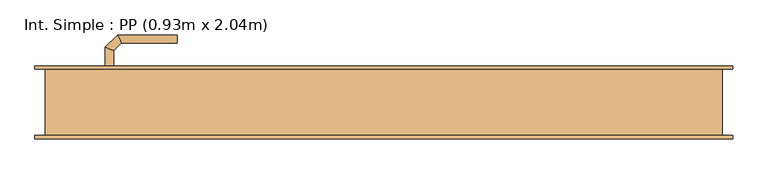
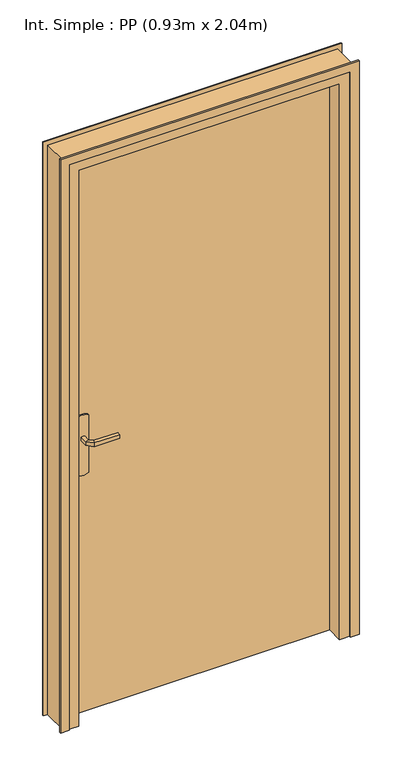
"""IFC4 building model written with IfcOpenShell, lengths in millimetres: door geometry, Int. Simple : PP (0.93m x 2.04m)."""

from ifc_helpers import new_model, si_unit, point, frame, frame_2d, origin, origin_with_axes, place, context, project, spatial, polyline, circle_curve, ellipse_curve, trimmed, segment, composite_curve, outline, extrude, faceted_brep, source, transform, mapped, element, save
from ifc_brep_helpers import plane_surface, cylinder_surface, advanced_brep


def int_simple_pp_0_93m_x_2_04m_fd0a7685(model_context):
    return source(origin(), model_context, "Body", "SolidModel", [
        extrude(outline(composite_curve([segment(trimmed(circle_curve(frame_2d((904.6410162, -440.0)), 40.0), [point((870.0, -460.0))], [point((870.0, -420.0))], False, "CARTESIAN"), True, "CONTINUOUS"), segment(polyline([(870.0, -420.0), (1080.0, -420.0)]), True, "CONTINUOUS"), segment(trimmed(circle_curve(frame_2d((1045.3589838, -440.0)), 40.0), [point((1080.0, -420.0))], [point((1080.0, -460.0))], False, "CARTESIAN"), True, "CONTINUOUS"), segment(polyline([(1080.0, -460.0), (870.0, -460.0)]), True, "CONTINUOUS")], self_intersect=False)), frame((0.0, 49.0, 0.0), z_axis=(0.0, 1.0, 0.0), x_axis=(0.0, 0.0, 1.0)), (0.0, 0.0, 1.0), 5.0),
        extrude(outline(composite_curve([segment(trimmed(circle_curve(frame_2d((1045.3589838, -440.0)), 40.0), [point((1080.0, -420.0))], [point((1080.0, -460.0))], False, "CARTESIAN"), True, "CONTINUOUS"), segment(polyline([(1080.0, -460.0), (870.0, -460.0)]), True, "CONTINUOUS"), segment(trimmed(circle_curve(frame_2d((904.6410162, -440.0)), 40.0), [point((870.0, -460.0))], [point((870.0, -420.0))], False, "CARTESIAN"), True, "CONTINUOUS"), segment(polyline([(870.0, -420.0), (1080.0, -420.0)]), True, "CONTINUOUS")], self_intersect=False)), frame((0.0, 4.0, 0.0), z_axis=(0.0, 1.0, 0.0), x_axis=(0.0, 0.0, 1.0)), (0.0, 0.0, 1.0), 5.0),
        advanced_brep(
        [(-446.0, 54.0, 1007.0), (-446.0, 54.0, 993.0), (-434.0, 54.0, 993.0), (-434.0, 54.0, 1007.0), (-434.0, 76.680388, 1007.0), (-446.0, 81.6509507, 1007.0), (-434.0, 76.680388, 993.0), (-446.0, 81.6509507, 993.0), (-422.6522273, 88.0281607, 1007.0), (-427.62279, 100.0281607, 1007.0), (-422.6522273, 88.0281607, 993.0), (-427.62279, 100.0281607, 993.0), (-339.9813594, 100.0281607, 1007.0), (-339.9813594, 88.0281607, 1007.0), (-339.9813594, 88.0281607, 993.0), (-339.9813594, 100.0281607, 993.0)],
        [
            (0, 1),
            (1, 2, circle_curve(frame((-440.0, 54.0, 1013.0457722), z_axis=(0.0, -1.0, 0.0), x_axis=(1.0, 0.0, 0.0)), 20.9244589)),
            (2, 3),
            (3, 0, circle_curve(frame((-440.0, 54.0, 986.9542278), z_axis=(0.0, -1.0, 0.0), x_axis=(1.0, 0.0, 0.0)), 20.9244589)),
            (3, 4),
            (4, 5, ellipse_curve(frame((-440.0, 79.1656693, 986.9542278), z_axis=(-0.3826834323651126, -0.9238795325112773, 0.0), x_axis=(0.9238795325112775, -0.38268343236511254, 0.0)), 22.6484711, 20.9244589)),
            (5, 0),
            (2, 6),
            (6, 4),
            (1, 7),
            (7, 6, ellipse_curve(frame((-440.0, 79.1656693, 1013.0457722), z_axis=(-0.3826834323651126, -0.9238795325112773, 0.0), x_axis=(0.9238795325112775, -0.38268343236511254, 0.0)), 22.6484711, 20.9244589)),
            (5, 7),
            (4, 8),
            (8, 9, ellipse_curve(frame((-425.1375086, 94.0281607, 986.9542278), z_axis=(-0.9238795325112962, -0.38268343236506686, 0.0), x_axis=(0.3826834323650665, -0.9238795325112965, 0.0)), 22.6484711, 20.9244589)),
            (9, 5),
            (6, 10),
            (10, 8),
            (7, 11),
            (11, 10, ellipse_curve(frame((-425.1375086, 94.0281607, 1013.0457722), z_axis=(-0.9238795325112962, -0.38268343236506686, 0.0), x_axis=(0.3826834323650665, -0.9238795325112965, 0.0)), 22.6484711, 20.9244589)),
            (9, 11),
            (12, 13, circle_curve(frame((-339.9813594, 94.0281607, 986.9542278), z_axis=(1.0, 0.0, 0.0), x_axis=(0.0, -1.0, 0.0)), 20.9244589)),
            (13, 14),
            (14, 15, circle_curve(frame((-339.9813594, 94.0281607, 1013.0457722), z_axis=(1.0, 0.0, 0.0), x_axis=(0.0, -1.0, 0.0)), 20.9244589)),
            (15, 12),
            (8, 13),
            (12, 9),
            (10, 14),
            (11, 15),
        ],
        [
            plane_surface(frame((-449.2195445, 54.0, 1000.0), z_axis=(0.0, -1.0, 0.0), x_axis=(0.0, 0.0, -1.0))),
            cylinder_surface(frame((-440.0, 54.0, 986.9542278), z_axis=(0.0, -1.0, 0.0), x_axis=(1.0, 0.0, 0.0)), 20.9244589),
            plane_surface(frame((-434.0, 54.0, 1007.0), z_axis=(1.0, 0.0, 0.0), x_axis=(0.0, 1.0, 0.0))),
            cylinder_surface(frame((-440.0, 54.0, 1013.0457722), z_axis=(0.0, -1.0, 0.0), x_axis=(1.0, 0.0, 0.0)), 20.9244589),
            plane_surface(frame((-446.0, 54.0, 993.0), z_axis=(-1.0, 0.0, 0.0), x_axis=(0.0, 1.0, 0.0))),
            cylinder_surface(frame((-440.0, 79.1656693, 986.9542278), z_axis=(-0.7071067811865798, -0.7071067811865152, 0.0), x_axis=(0.7071067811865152, -0.7071067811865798, 0.0)), 20.9244589),
            plane_surface(frame((-434.0, 76.680388, 1007.0), z_axis=(0.7071067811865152, -0.7071067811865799, 0.0), x_axis=(0.7071067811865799, 0.7071067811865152, 0.0))),
            cylinder_surface(frame((-440.0, 79.1656693, 1013.0457722), z_axis=(-0.7071067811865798, -0.7071067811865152, 0.0), x_axis=(0.7071067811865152, -0.7071067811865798, 0.0)), 20.9244589),
            plane_surface(frame((-446.0, 81.6509507, 993.0), z_axis=(-0.7071067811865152, 0.7071067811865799, 0.0), x_axis=(0.7071067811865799, 0.7071067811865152, 0.0))),
            plane_surface(frame((-339.9813594, 94.0281607, 990.7804555), z_axis=(1.0, 0.0, 0.0), x_axis=(0.0, -1.0, 0.0))),
            cylinder_surface(frame((-425.1375086, 94.0281607, 986.9542278), z_axis=(-1.0, 0.0, 0.0), x_axis=(0.0, -1.0, 0.0)), 20.9244589),
            plane_surface(frame((-422.6522273, 88.0281607, 1007.0), z_axis=(0.0, -1.0, 0.0), x_axis=(1.0, 0.0, 0.0))),
            cylinder_surface(frame((-425.1375086, 94.0281607, 1013.0457722), z_axis=(-1.0, 0.0, 0.0), x_axis=(0.0, -1.0, 0.0)), 20.9244589),
            plane_surface(frame((-427.62279, 100.0281607, 993.0), z_axis=(0.0, 1.0, 0.0), x_axis=(1.0, 0.0, 0.0))),
        ],
        [
            (0, [[1, 2, 3, 4]]),
            (1, [[5, 6, 7, -4]]),
            (2, [[8, 9, -5, -3]]),
            (3, [[10, 11, -8, -2]]),
            (4, [[-7, 12, -10, -1]]),
            (5, [[13, 14, 15, -6]]),
            (6, [[16, 17, -13, -9]]),
            (7, [[18, 19, -16, -11]]),
            (8, [[-15, 20, -18, -12]]),
            (9, [[21, 22, 23, 24]]),
            (10, [[25, -21, 26, -14]]),
            (11, [[27, -22, -25, -17]]),
            (12, [[28, -23, -27, -19]]),
            (13, [[-26, -24, -28, -20]]),
        ],
    ),
        advanced_brep(
        [(-434.0, 4.0, 993.0), (-446.0, 4.0, 993.0), (-446.0, 4.0, 1007.0), (-434.0, 4.0, 1007.0), (-434.0, -18.4852045, 1007.0), (-434.0, -18.4852045, 993.0), (-446.0, -23.4557673, 1007.0), (-446.0, -23.4557673, 993.0), (-422.5147186, -29.9704859, 1007.0), (-422.5147186, -29.9704859, 993.0), (-427.4852814, -41.9704859, 1007.0), (-427.4852814, -41.9704859, 993.0), (-339.9542163, -29.9704859, 993.0), (-339.9542163, -29.9704859, 1007.0), (-339.9542163, -41.9704859, 1007.0), (-339.9542163, -41.9704859, 993.0)],
        [
            (0, 1, circle_curve(frame((-440.0, 4.0, 1013.0457722), z_axis=(0.0, 1.0, 0.0), x_axis=(-1.0, 0.0, 0.0)), 20.9244589)),
            (1, 2),
            (2, 3, circle_curve(frame((-440.0, 4.0, 986.9542278), z_axis=(0.0, 1.0, 0.0), x_axis=(-1.0, 0.0, 0.0)), 20.9244589)),
            (3, 0),
            (3, 4),
            (4, 5),
            (5, 0),
            (2, 6),
            (6, 4, ellipse_curve(frame((-440.0, -20.9704859, 986.9542278), z_axis=(-0.3826834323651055, 0.9238795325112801, 0.0), x_axis=(0.9238795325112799, 0.3826834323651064, 0.0)), 22.6484711, 20.9244589)),
            (1, 7),
            (7, 6),
            (5, 7, ellipse_curve(frame((-440.0, -20.9704859, 1013.0457722), z_axis=(-0.3826834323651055, 0.9238795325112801, 0.0), x_axis=(0.9238795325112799, 0.3826834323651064, 0.0)), 22.6484711, 20.9244589)),
            (4, 8),
            (8, 9),
            (9, 5),
            (6, 10),
            (10, 8, ellipse_curve(frame((-425.0, -35.9704859, 986.9542278), z_axis=(-0.9238795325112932, 0.382683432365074, 0.0), x_axis=(0.3826834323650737, 0.9238795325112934, 0.0)), 22.6484711, 20.9244589)),
            (7, 11),
            (11, 10),
            (9, 11, ellipse_curve(frame((-425.0, -35.9704859, 1013.0457722), z_axis=(-0.9238795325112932, 0.382683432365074, 0.0), x_axis=(0.3826834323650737, 0.9238795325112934, 0.0)), 22.6484711, 20.9244589)),
            (12, 13),
            (13, 14, circle_curve(frame((-339.9542163, -35.9704859, 986.9542278), z_axis=(1.0, 0.0, 0.0), x_axis=(0.0, -1.0, 0.0)), 20.9244589)),
            (14, 15),
            (15, 12, circle_curve(frame((-339.9542163, -35.9704859, 1013.0457722), z_axis=(1.0, 0.0, 0.0), x_axis=(0.0, -1.0, 0.0)), 20.9244589)),
            (8, 13),
            (12, 9),
            (10, 14),
            (11, 15),
        ],
        [
            plane_surface(frame((-449.2195445, 4.0, 1000.0), z_axis=(0.0, 1.0, 0.0), x_axis=(0.0, 0.0, 1.0))),
            plane_surface(frame((-434.0, 4.0, 993.0), z_axis=(1.0, 0.0, 0.0), x_axis=(0.0, -1.0, 0.0))),
            cylinder_surface(frame((-440.0, 4.0, 986.9542278), z_axis=(0.0, 1.0, 0.0), x_axis=(-1.0, 0.0, 0.0)), 20.9244589),
            plane_surface(frame((-446.0, 4.0, 1007.0), z_axis=(-1.0, 0.0, 0.0), x_axis=(0.0, -1.0, 0.0))),
            cylinder_surface(frame((-440.0, 4.0, 1013.0457722), z_axis=(0.0, 1.0, 0.0), x_axis=(-1.0, 0.0, 0.0)), 20.9244589),
            plane_surface(frame((-434.0, -18.4852045, 993.0), z_axis=(0.7071067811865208, 0.7071067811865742, 0.0), x_axis=(0.7071067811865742, -0.7071067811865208, 0.0))),
            cylinder_surface(frame((-440.0, -20.9704859, 986.9542278), z_axis=(-0.7071067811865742, 0.7071067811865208, 0.0), x_axis=(-0.7071067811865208, -0.7071067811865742, 0.0)), 20.9244589),
            plane_surface(frame((-446.0, -23.4557673, 1007.0), z_axis=(-0.7071067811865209, -0.7071067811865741, 0.0), x_axis=(0.7071067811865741, -0.7071067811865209, 0.0))),
            cylinder_surface(frame((-440.0, -20.9704859, 1013.0457722), z_axis=(-0.7071067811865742, 0.7071067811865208, 0.0), x_axis=(-0.7071067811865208, -0.7071067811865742, 0.0)), 20.9244589),
            plane_surface(frame((-339.9542163, -35.9704859, 990.7804555), z_axis=(1.0, 0.0, 0.0), x_axis=(0.0, -1.0, 0.0))),
            plane_surface(frame((-422.5147186, -29.9704859, 993.0), z_axis=(0.0, 1.0, 0.0), x_axis=(1.0, 0.0, 0.0))),
            cylinder_surface(frame((-425.0, -35.9704859, 986.9542278), z_axis=(-1.0, 0.0, 0.0), x_axis=(0.0, -1.0, 0.0)), 20.9244589),
            plane_surface(frame((-427.4852814, -41.9704859, 1007.0), z_axis=(0.0, -1.0, 0.0), x_axis=(1.0, 0.0, 0.0))),
            cylinder_surface(frame((-425.0, -35.9704859, 1013.0457722), z_axis=(-1.0, 0.0, 0.0), x_axis=(0.0, -1.0, 0.0)), 20.9244589),
        ],
        [
            (0, [[1, 2, 3, 4]]),
            (1, [[5, 6, 7, -4]]),
            (2, [[8, 9, -5, -3]]),
            (3, [[10, 11, -8, -2]]),
            (4, [[-7, 12, -10, -1]]),
            (5, [[13, 14, 15, -6]]),
            (6, [[16, 17, -13, -9]]),
            (7, [[18, 19, -16, -11]]),
            (8, [[-15, 20, -18, -12]]),
            (9, [[21, 22, 23, 24]]),
            (10, [[25, -21, 26, -14]]),
            (11, [[27, -22, -25, -17]]),
            (12, [[28, -23, -27, -19]]),
            (13, [[-26, -24, -28, -20]]),
        ],
    ),
        extrude(outline(polyline([(-500.0, 9.0), (-500.0, 49.0), (430.0, 49.0), (430.0, 9.0), (-500.0, 9.0)])), origin_with_axes(), (0.0, 0.0, 1.0), 2040.0),
        faceted_brep([(-535.0, 49.0, 0.0), (-500.0, 49.0, 0.0), (-500.0, 9.0, 0.0), (-485.0, 9.0, 0.0), (-485.0, -49.0, 0.0), (-535.0, -49.0, 0.0), (-535.0, -49.0, 2075.0), (-535.0, 49.0, 2075.0), (-485.0, -49.0, 2025.0), (415.0, -49.0, 2025.0), (415.0, -49.0, 0.0), (465.0, -49.0, 0.0), (465.0, -49.0, 2075.0), (-485.0, 9.0, 2025.0), (-500.0, 9.0, 2040.0), (430.0, 9.0, 2040.0), (430.0, 9.0, 0.0), (415.0, 9.0, 0.0), (415.0, 9.0, 2025.0), (-500.0, 49.0, 2040.0), (465.0, 49.0, 2075.0), (465.0, 49.0, 0.0), (430.0, 49.0, 0.0), (430.0, 49.0, 2040.0)], [[[0, 1, 2, 3, 4, 5]], [[5, 6, 7, 0]], [[4, 8, 9, 10, 11, 12, 6, 5]], [[3, 13, 8, 4]], [[2, 14, 15, 16, 17, 18, 13, 3]], [[1, 19, 14, 2]], [[0, 7, 20, 21, 22, 23, 19, 1]], [[12, 11, 21, 20]], [[21, 11, 10, 17, 16, 22]], [[18, 17, 10, 9]], [[23, 22, 16, 15]], [[6, 12, 20, 7]], [[13, 18, 9, 8]], [[19, 23, 15, 14]]]),
        extrude(outline(polyline([(0.0, -520.0), (2060.0, -520.0), (2060.0, 450.0), (0.0, 450.0), (0.0, 480.0), (2090.0, 480.0), (2090.0, -550.0), (0.0, -550.0), (0.0, -520.0)])), frame((0.0, 49.0, 0.0), z_axis=(0.0, 1.0, 0.0), x_axis=(0.0, 0.0, 1.0)), (0.0, 0.0, 1.0), 5.0),
        extrude(outline(polyline([(0.0, -520.0), (2060.0, -520.0), (2060.0, 450.0), (0.0, 450.0), (0.0, 480.0), (2090.0, 480.0), (2090.0, -550.0), (0.0, -550.0), (0.0, -520.0)])), frame((0.0, -54.0, 0.0), z_axis=(0.0, 1.0, 0.0), x_axis=(0.0, 0.0, 1.0)), (0.0, 0.0, 1.0), 5.0),
    ])


if __name__ == "__main__":
    model = new_model("IFC4")
    model_context = context("Model", 3, world=origin())
    ifc_project = project(units=[si_unit("LENGTHUNIT", "METRE", prefix="MILLI")], contexts=[model_context])
    site = spatial("IfcSite", under=ifc_project)
    building = spatial("IfcBuilding", under=site)
    placement = place(None, origin())
    int_simple_pp_0_93m_x_2_04m_shape = int_simple_pp_0_93m_x_2_04m_fd0a7685(model_context)
    element("IfcDoor", 1, ObjectType="Int. Simple : PP (0.93m x 2.04m)", at=placement, inside=building, context=model_context, shape_type="MappedRepresentation", body=[
        mapped(int_simple_pp_0_93m_x_2_04m_shape, transform((0.0, 0.0, 0.0), x_axis=(1.0, 0.0, 0.0), y_axis=(0.0, 1.0, 0.0), z_axis=(0.0, 0.0, 1.0))),
    ])
    save(model, "model.ifc")
